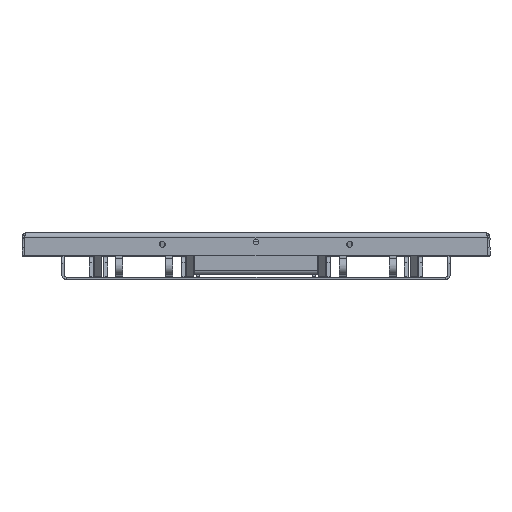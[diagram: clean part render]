
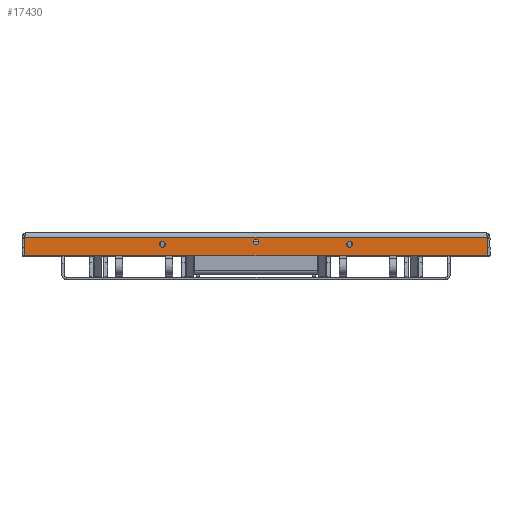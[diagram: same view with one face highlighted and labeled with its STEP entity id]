
A CAD part, front view. The second image highlights one B-rep face of the part: STEP entity #17430.
In plain terms, the highlighted planar face has unit normal (0, -1, 0) as drawn and (-1, 0, 0) by its records, which use the part's own axes.
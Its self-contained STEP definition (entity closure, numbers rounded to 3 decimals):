
#528=FACE_BOUND('',#3796,.T.);
#529=FACE_BOUND('',#3797,.T.);
#530=FACE_BOUND('',#3798,.T.);
#1271=CIRCLE('',#19167,1.);
#1273=CIRCLE('',#19170,1.);
#1274=CIRCLE('',#19171,1.);
#1275=CIRCLE('',#19172,1.);
#1276=CIRCLE('',#19173,6.25);
#1277=CIRCLE('',#19174,6.25);
#1278=CIRCLE('',#19175,6.25);
#2696=FACE_OUTER_BOUND('',#3795,.T.);
#3795=EDGE_LOOP('',(#14712,#14713,#14714,#14715,#14716,#14717,#14718,#14719,
#14720,#14721));
#3796=EDGE_LOOP('',(#14722));
#3797=EDGE_LOOP('',(#14723));
#3798=EDGE_LOOP('',(#14724));
#5210=LINE('',#28656,#6682);
#5211=LINE('',#28660,#6683);
#5212=LINE('',#28662,#6684);
#5213=LINE('',#28664,#6685);
#5214=LINE('',#28668,#6686);
#5215=LINE('',#28671,#6687);
#6682=VECTOR('',#23465,10.);
#6683=VECTOR('',#23468,10.);
#6684=VECTOR('',#23469,10.);
#6685=VECTOR('',#23470,10.);
#6686=VECTOR('',#23473,10.);
#6687=VECTOR('',#23476,10.);
#8276=VERTEX_POINT('',#28646);
#8277=VERTEX_POINT('',#28647);
#8280=VERTEX_POINT('',#28655);
#8281=VERTEX_POINT('',#28657);
#8282=VERTEX_POINT('',#28659);
#8283=VERTEX_POINT('',#28661);
#8284=VERTEX_POINT('',#28663);
#8285=VERTEX_POINT('',#28665);
#8286=VERTEX_POINT('',#28667);
#8287=VERTEX_POINT('',#28669);
#8288=VERTEX_POINT('',#28672);
#8289=VERTEX_POINT('',#28674);
#8290=VERTEX_POINT('',#28676);
#10543=EDGE_CURVE('',#8276,#8277,#1271,.T.);
#10547=EDGE_CURVE('',#8276,#8280,#5210,.T.);
#10548=EDGE_CURVE('',#8281,#8280,#1273,.T.);
#10549=EDGE_CURVE('',#8281,#8282,#5211,.T.);
#10550=EDGE_CURVE('',#8282,#8283,#5212,.T.);
#10551=EDGE_CURVE('',#8283,#8284,#5213,.T.);
#10552=EDGE_CURVE('',#8285,#8284,#1274,.T.);
#10553=EDGE_CURVE('',#8285,#8286,#5214,.T.);
#10554=EDGE_CURVE('',#8287,#8286,#1275,.T.);
#10555=EDGE_CURVE('',#8277,#8287,#5215,.T.);
#10556=EDGE_CURVE('',#8288,#8288,#1276,.T.);
#10557=EDGE_CURVE('',#8289,#8289,#1277,.T.);
#10558=EDGE_CURVE('',#8290,#8290,#1278,.T.);
#14712=ORIENTED_EDGE('',*,*,#10543,.F.);
#14713=ORIENTED_EDGE('',*,*,#10547,.T.);
#14714=ORIENTED_EDGE('',*,*,#10548,.F.);
#14715=ORIENTED_EDGE('',*,*,#10549,.T.);
#14716=ORIENTED_EDGE('',*,*,#10550,.T.);
#14717=ORIENTED_EDGE('',*,*,#10551,.T.);
#14718=ORIENTED_EDGE('',*,*,#10552,.F.);
#14719=ORIENTED_EDGE('',*,*,#10553,.T.);
#14720=ORIENTED_EDGE('',*,*,#10554,.F.);
#14721=ORIENTED_EDGE('',*,*,#10555,.F.);
#14722=ORIENTED_EDGE('',*,*,#10556,.T.);
#14723=ORIENTED_EDGE('',*,*,#10557,.T.);
#14724=ORIENTED_EDGE('',*,*,#10558,.T.);
#16718=PLANE('',#19169);
#17430=ADVANCED_FACE('',(#2696,#528,#529,#530),#16718,.F.);
#19167=AXIS2_PLACEMENT_3D('',#28648,#23457,#23458);
#19169=AXIS2_PLACEMENT_3D('',#28654,#23463,#23464);
#19170=AXIS2_PLACEMENT_3D('',#28658,#23466,#23467);
#19171=AXIS2_PLACEMENT_3D('',#28666,#23471,#23472);
#19172=AXIS2_PLACEMENT_3D('',#28670,#23474,#23475);
#19173=AXIS2_PLACEMENT_3D('',#28673,#23477,#23478);
#19174=AXIS2_PLACEMENT_3D('',#28675,#23479,#23480);
#19175=AXIS2_PLACEMENT_3D('',#28677,#23481,#23482);
#23457=DIRECTION('center_axis',(1.,0.,0.));
#23458=DIRECTION('ref_axis',(0.,0.707,0.707));
#23463=DIRECTION('center_axis',(1.,0.,0.));
#23464=DIRECTION('ref_axis',(0.,0.,-1.));
#23465=DIRECTION('',(0.,0.,-1.));
#23466=DIRECTION('center_axis',(1.,0.,0.));
#23467=DIRECTION('ref_axis',(0.,1.,-0.029));
#23468=DIRECTION('',(0.,-0.057,-0.998));
#23469=DIRECTION('',(0.,-1.,0.));
#23470=DIRECTION('',(0.,-0.057,0.998));
#23471=DIRECTION('center_axis',(1.,0.,0.));
#23472=DIRECTION('ref_axis',(0.,-1.,-0.029));
#23473=DIRECTION('',(0.,0.,1.));
#23474=DIRECTION('center_axis',(1.,0.,0.));
#23475=DIRECTION('ref_axis',(0.,-0.707,0.707));
#23476=DIRECTION('',(0.,-1.,0.));
#23477=DIRECTION('center_axis',(1.,0.,0.));
#23478=DIRECTION('ref_axis',(0.,0.,-1.));
#23479=DIRECTION('center_axis',(1.,0.,0.));
#23480=DIRECTION('ref_axis',(0.,0.,-1.));
#23481=DIRECTION('center_axis',(1.,0.,0.));
#23482=DIRECTION('ref_axis',(0.,0.,-1.));
#28646=CARTESIAN_POINT('',(-675.,494.89,49.));
#28647=CARTESIAN_POINT('',(-675.,493.89,50.));
#28648=CARTESIAN_POINT('Origin',(-675.,493.89,49.));
#28654=CARTESIAN_POINT('Origin',(-675.,0.,24.992));
#28655=CARTESIAN_POINT('',(-675.,494.89,24.608));
#28656=CARTESIAN_POINT('',(-675.,494.89,37.496));
#28657=CARTESIAN_POINT('',(-675.,494.888,24.551));
#28658=CARTESIAN_POINT('Origin',(-675.,493.89,24.608));
#28659=CARTESIAN_POINT('',(-675.,494.057,10.));
#28660=CARTESIAN_POINT('',(-675.,494.096,10.692));
#28661=CARTESIAN_POINT('',(-675.,-494.057,10.));
#28662=CARTESIAN_POINT('',(-675.,0.,10.));
#28663=CARTESIAN_POINT('',(-675.,-494.888,24.551));
#28664=CARTESIAN_POINT('',(-675.,-494.096,10.692));
#28665=CARTESIAN_POINT('',(-675.,-494.89,24.608));
#28666=CARTESIAN_POINT('Origin',(-675.,-493.89,24.608));
#28667=CARTESIAN_POINT('',(-675.,-494.89,49.));
#28668=CARTESIAN_POINT('',(-675.,-494.89,37.496));
#28669=CARTESIAN_POINT('',(-675.,-493.89,50.));
#28670=CARTESIAN_POINT('Origin',(-675.,-493.89,49.));
#28671=CARTESIAN_POINT('',(-675.,494.9,50.));
#28672=CARTESIAN_POINT('',(-675.,-200.,31.25));
#28673=CARTESIAN_POINT('Origin',(-675.,-200.,25.));
#28674=CARTESIAN_POINT('',(-675.,0.,26.25));
#28675=CARTESIAN_POINT('Origin',(-675.,0.,20.));
#28676=CARTESIAN_POINT('',(-675.,200.,31.25));
#28677=CARTESIAN_POINT('Origin',(-675.,200.,25.));
